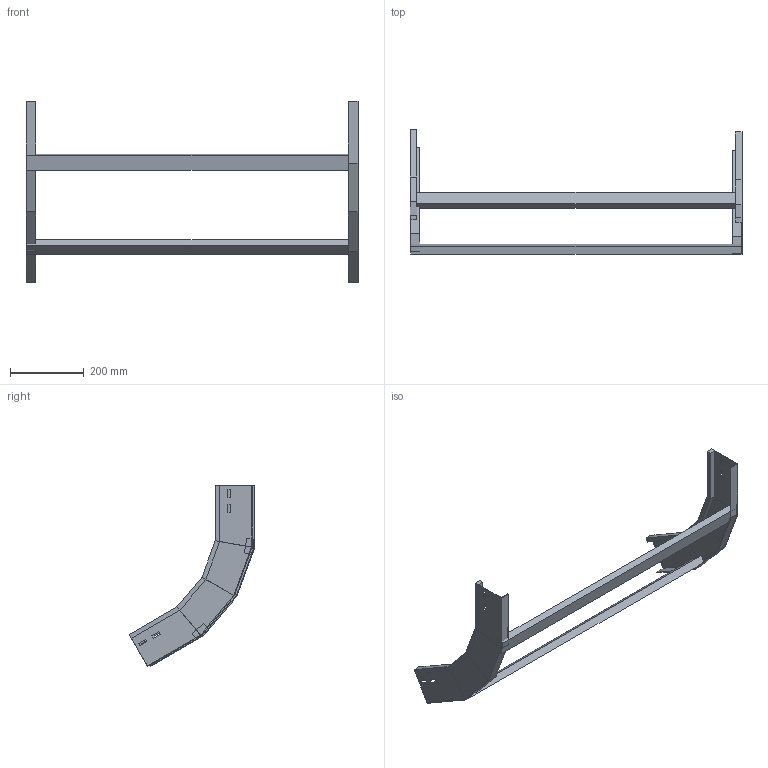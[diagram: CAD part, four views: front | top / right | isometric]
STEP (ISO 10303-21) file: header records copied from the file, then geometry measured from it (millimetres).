
FILE_DESCRIPTION (( 'STEP AP214' ), '1' );
FILE_NAME ('A2X40B3D900XX.step', '2025-04-02T09:52:04', ( '' ), ( '' ), 'SwSTEP 2.0', 'SolidWorks 2023', '' );
FILE_SCHEMA (( 'AUTOMOTIVE_DESIGN' ));
Length unit declared in the file: millimetre
Products named in the file (3): LONGH.SALITA_60°_H100_R300; A2X40B3D900XX; TRAVERSINO_900
Assembly tree (4 placements, depth 2):
  A2X40B3D900XX
    LONGH.SALITA_60°_H100_R300  x2
    TRAVERSINO_900  x2
Bounding box: 900 x 340.82 x 490.76 mm (x, y, z)
Volume: 1933970 mm3; surface area: 544488.7 mm2
Topology: 4 solids, 4 shells, 112 faces, 264 edges, 160 vertices
Faces by surface type: plane 112
Entity records: 1664 total; most frequent: CARTESIAN_POINT 275, ORIENTED_EDGE 264, DIRECTION 258, EDGE_CURVE 132, VECTOR 132, LINE 132, VERTEX_POINT 80, EDGE_LOOP 64
